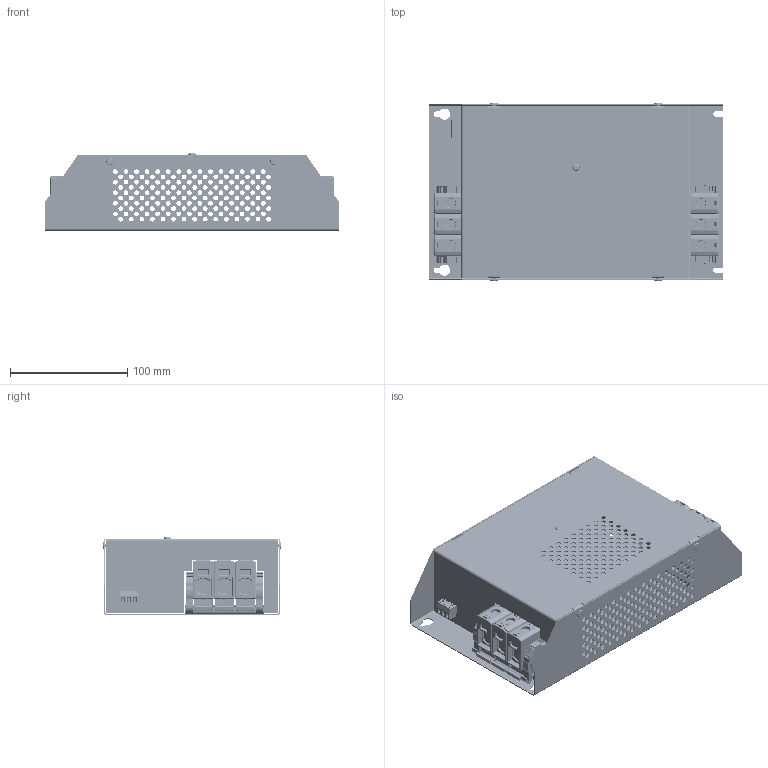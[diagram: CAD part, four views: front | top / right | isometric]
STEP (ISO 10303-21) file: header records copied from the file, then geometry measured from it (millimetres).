
FILE_DESCRIPTION(/* description */ (''),/* implementation_level */ '2;1');
FILE_NAME(/* name */ 'K:\PROJEKTY ROZPRACOVANÉ\MODELY DO KATALOGU\HSAF\3D - STEP\HSAF80 S.stp',/* time_stamp */ '2017-09-27T08:43:43+02:00',/* author */ ('admin'),/* organization */ (''),/* preprocessor_version */ 'ST-DEVELOPER v16.1',/* originating_system */ 'Autodesk Inventor 2016',/* authorisation */ '');
FILE_SCHEMA (('AUTOMOTIVE_DESIGN { 1 0 10303 214 3 1 1 }'));
Products named in the file (14): ZÁKLADNA; VÍKO 1F 80, 120, 150; DIN LIŠTA 67; 15EDGK - 5.08 3P; ŠROUB M1.6x2.5 5.08, 3.81; 15EDGK - 5.08 3P_1; 15EDGRC - 5.08 3P; 249-116_HI; DIN 7337 - A3 x 6 x 2,5; OTL1x50_BLUE; OTL1x50_GREY; OTL1x50_YELLOW-GREEN; KRYTKA NA LED; HSAF80 S, 120 S, 150 S
Assembly tree (25 placements, depth 3):
  HSAF80 S, 120 S, 150 S
    ZÁKLADNA
    VÍKO 1F 80, 120, 150
    DIN LIŠTA 67  x2
    15EDGK - 5.08 3P_1
      15EDGK - 5.08 3P
      ŠROUB M1.6x2.5 5.08, 3.81  x3
    15EDGRC - 5.08 3P
    249-116_HI  x4
    DIN 7337 - A3 x 6 x 2,5  x4
    OTL1x50_BLUE  x2
    OTL1x50_GREY  x2
    OTL1x50_YELLOW-GREEN  x2
    KRYTKA NA LED
Bounding box: 250 x 151.6 x 66.3 mm (x, y, z)
Volume: 298965.6 mm3; surface area: 300014.9 mm2
Topology: 24 solids, 28 shells, 11034 faces, 30083 edges, 19123 vertices
Faces by surface type: plane 8035, cylinder 2118, bspline 568, sphere 144, cone 120, torus 49
Full cylindrical faces by diameter (mm): 0.8 x3, 0.9 x3, 1 x3, 1.171 x3, 1.6 x3, 1.8 x3, 1.9 x3, 2 x3, 2.5 x3, 3 x4, 3.2 x8, 4 x430, 4.2 x4, 4.22 x5, 5 x1, 6.5 x4, 7.977 x12
Entity records: 191926 total; most frequent: CARTESIAN_POINT 42542, ORIENTED_EDGE 30706, DIRECTION 28571, EDGE_CURVE 15353, LINE 12413, VECTOR 12413, VERTEX_POINT 10187, AXIS2_PLACEMENT_3D 8079
